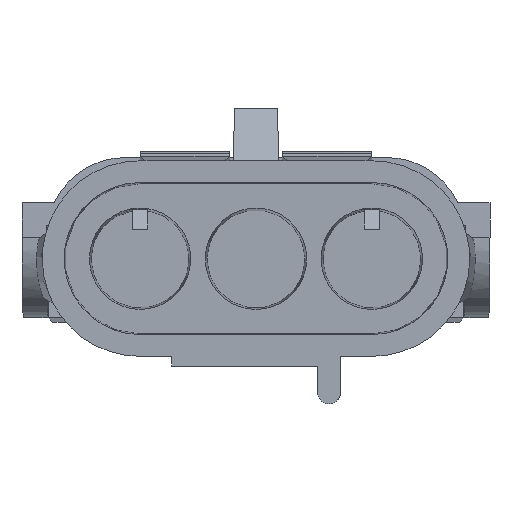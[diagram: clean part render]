
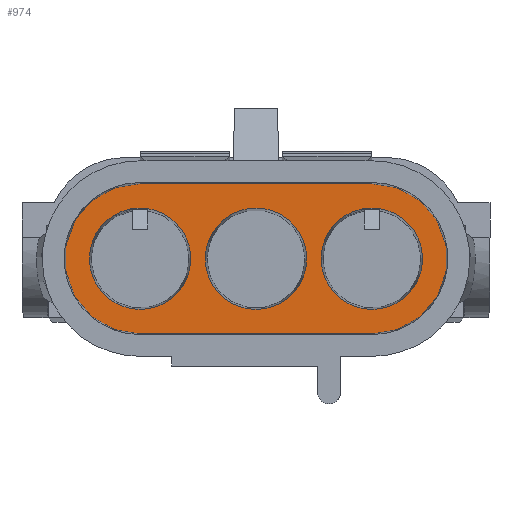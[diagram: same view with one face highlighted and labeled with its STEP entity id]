
A CAD part, top view. The second image highlights one B-rep face of the part: STEP entity #974.
In plain terms, the highlighted planar face has unit normal (0, 0, 1).
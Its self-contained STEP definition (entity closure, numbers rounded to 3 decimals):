
#145=FACE_BOUND('',#1337,.T.);
#146=FACE_BOUND('',#1338,.T.);
#147=FACE_BOUND('',#1339,.T.);
#148=FACE_BOUND('',#1340,.T.);
#160=PLANE('',#3553);
#289=LINE('',#4998,#629);
#290=LINE('',#5003,#630);
#629=VECTOR('',#3885,1.);
#630=VECTOR('',#3888,1.);
#974=ADVANCED_FACE('',(#145,#146,#147,#148),#160,.T.);
#1337=EDGE_LOOP('',(#1678));
#1338=EDGE_LOOP('',(#1679,#1680,#1681,#1682));
#1339=EDGE_LOOP('',(#1683));
#1340=EDGE_LOOP('',(#1684));
#1678=ORIENTED_EDGE('',*,*,#3007,.T.);
#1679=ORIENTED_EDGE('',*,*,#3008,.T.);
#1680=ORIENTED_EDGE('',*,*,#3009,.T.);
#1681=ORIENTED_EDGE('',*,*,#3010,.F.);
#1682=ORIENTED_EDGE('',*,*,#3011,.T.);
#1683=ORIENTED_EDGE('',*,*,#3006,.T.);
#1684=ORIENTED_EDGE('',*,*,#3012,.T.);
#2677=VERTEX_POINT('',#4994);
#2678=VERTEX_POINT('',#4997);
#2679=VERTEX_POINT('',#4999);
#2680=VERTEX_POINT('',#5000);
#2681=VERTEX_POINT('',#5002);
#2682=VERTEX_POINT('',#5004);
#2683=VERTEX_POINT('',#5007);
#3006=EDGE_CURVE('',#2677,#2677,#3477,.T.);
#3007=EDGE_CURVE('',#2678,#2678,#3478,.T.);
#3008=EDGE_CURVE('',#2679,#2680,#289,.T.);
#3009=EDGE_CURVE('',#2680,#2681,#3479,.T.);
#3010=EDGE_CURVE('',#2682,#2681,#290,.T.);
#3011=EDGE_CURVE('',#2682,#2679,#3480,.T.);
#3012=EDGE_CURVE('',#2683,#2683,#3481,.T.);
#3477=CIRCLE('',#3547,3.368);
#3478=CIRCLE('',#3549,3.368);
#3479=CIRCLE('',#3550,5.);
#3480=CIRCLE('',#3551,5.);
#3481=CIRCLE('',#3552,3.368);
#3547=AXIS2_PLACEMENT_3D('',#4993,#3879,#3880);
#3549=AXIS2_PLACEMENT_3D('',#4996,#3883,#3884);
#3550=AXIS2_PLACEMENT_3D('',#5001,#3886,#3887);
#3551=AXIS2_PLACEMENT_3D('',#5005,#3889,#3890);
#3552=AXIS2_PLACEMENT_3D('',#5006,#3891,#3892);
#3553=AXIS2_PLACEMENT_3D('',#5008,#3893,#3894);
#3879=DIRECTION('',(0.,0.,-1.));
#3880=DIRECTION('',(0.,-1.,0.));
#3883=DIRECTION('',(0.,0.,-1.));
#3884=DIRECTION('',(0.,-1.,0.));
#3885=DIRECTION('',(1.,0.,0.));
#3886=DIRECTION('',(0.,0.,1.));
#3887=DIRECTION('',(0.,-1.,0.));
#3888=DIRECTION('',(1.,0.,0.));
#3889=DIRECTION('',(0.,0.,1.));
#3890=DIRECTION('',(0.,-1.,0.));
#3891=DIRECTION('',(0.,0.,-1.));
#3892=DIRECTION('',(0.,-1.,0.));
#3893=DIRECTION('',(0.,0.,1.));
#3894=DIRECTION('',(0.,-1.,0.));
#4993=CARTESIAN_POINT('',(-7.7,0.,-1.3));
#4994=CARTESIAN_POINT('',(-7.7,-3.368,-1.3));
#4996=CARTESIAN_POINT('',(0.,0.,-1.3));
#4997=CARTESIAN_POINT('',(0.,-3.368,-1.3));
#4998=CARTESIAN_POINT('',(0.,-5.,-1.3));
#4999=CARTESIAN_POINT('',(-7.7,-5.,-1.3));
#5000=CARTESIAN_POINT('',(7.7,-5.,-1.3));
#5001=CARTESIAN_POINT('',(7.7,0.,-1.3));
#5002=CARTESIAN_POINT('',(7.7,5.,-1.3));
#5003=CARTESIAN_POINT('',(0.,5.,-1.3));
#5004=CARTESIAN_POINT('',(-7.7,5.,-1.3));
#5005=CARTESIAN_POINT('',(-7.7,0.,-1.3));
#5006=CARTESIAN_POINT('',(7.7,0.,-1.3));
#5007=CARTESIAN_POINT('',(7.7,-3.368,-1.3));
#5008=CARTESIAN_POINT('',(7.7,0.,-1.3));
